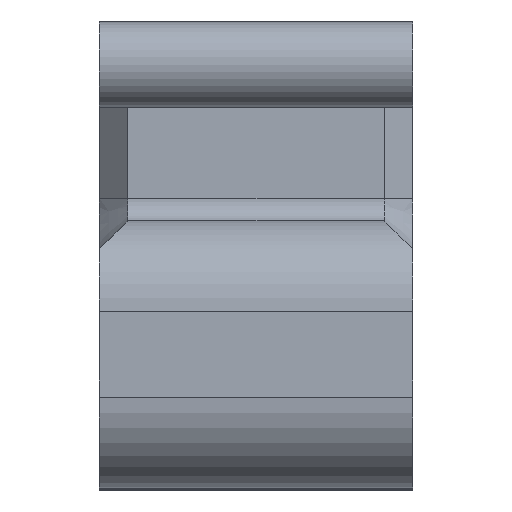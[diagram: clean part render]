
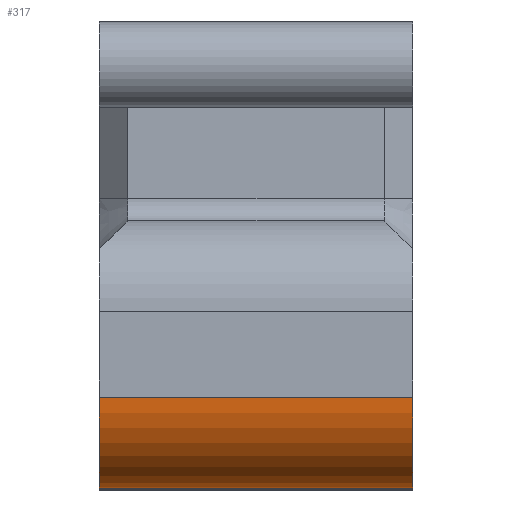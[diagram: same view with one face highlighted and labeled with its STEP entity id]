
A CAD part, top view. The second image highlights one B-rep face of the part: STEP entity #317.
In plain terms, the highlighted cylindrical face has radius 1.6 mm (diameter 3.2 mm), a partial arc.
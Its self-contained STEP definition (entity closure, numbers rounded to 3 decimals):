
#256=CARTESIAN_POINT('Vertex',(2.75,1.6,10.)) ;
#272=CARTESIAN_POINT('Vertex',(-2.75,1.6,10.)) ;
#275=CARTESIAN_POINT('Line Origine',(0.,1.6,10.)) ;
#287=CARTESIAN_POINT('Axis2P3D Location',(0.,1.6,8.4)) ;
#292=CARTESIAN_POINT('Axis2P3D Location',(2.75,1.6,8.4)) ;
#296=CARTESIAN_POINT('Vertex',(2.75,0.,8.4)) ;
#299=CARTESIAN_POINT('Axis2P3D Location',(-2.75,1.6,8.4)) ;
#303=CARTESIAN_POINT('Vertex',(-2.75,0.,8.4)) ;
#306=CARTESIAN_POINT('Line Origine',(0.,0.,8.4)) ;
#276=DIRECTION('Vector Direction',(1.,0.,0.)) ;
#288=DIRECTION('Axis2P3D Direction',(1.,0.,0.)) ;
#289=DIRECTION('Axis2P3D XDirection',(0.,0.,1.)) ;
#293=DIRECTION('Axis2P3D Direction',(1.,0.,0.)) ;
#300=DIRECTION('Axis2P3D Direction',(1.,0.,0.)) ;
#307=DIRECTION('Vector Direction',(1.,0.,0.)) ;
#290=AXIS2_PLACEMENT_3D('Cylinder Axis2P3D',#287,#288,#289) ;
#294=AXIS2_PLACEMENT_3D('Circle Axis2P3D',#292,#293,$) ;
#301=AXIS2_PLACEMENT_3D('Circle Axis2P3D',#299,#300,$) ;
#312=ORIENTED_EDGE('',*,*,#298,.T.) ;
#313=ORIENTED_EDGE('',*,*,#279,.F.) ;
#314=ORIENTED_EDGE('',*,*,#305,.F.) ;
#315=ORIENTED_EDGE('',*,*,#310,.T.) ;
#277=VECTOR('Line Direction',#276,1.) ;
#308=VECTOR('Line Direction',#307,1.) ;
#317=ADVANCED_FACE('PartBody',(#316),#291,.T.) ;
#295=CIRCLE('generated circle',#294,1.6) ;
#302=CIRCLE('generated circle',#301,1.6) ;
#291=CYLINDRICAL_SURFACE('generated cylinder',#290,1.6) ;
#279=EDGE_CURVE('',#273,#257,#278,.T.) ;
#298=EDGE_CURVE('',#297,#257,#295,.F.) ;
#305=EDGE_CURVE('',#304,#273,#302,.F.) ;
#310=EDGE_CURVE('',#304,#297,#309,.T.) ;
#311=EDGE_LOOP('',(#312,#313,#314,#315)) ;
#316=FACE_OUTER_BOUND('',#311,.T.) ;
#278=LINE('Line',#275,#277) ;
#309=LINE('Line',#306,#308) ;
#257=VERTEX_POINT('',#256) ;
#273=VERTEX_POINT('',#272) ;
#297=VERTEX_POINT('',#296) ;
#304=VERTEX_POINT('',#303) ;
